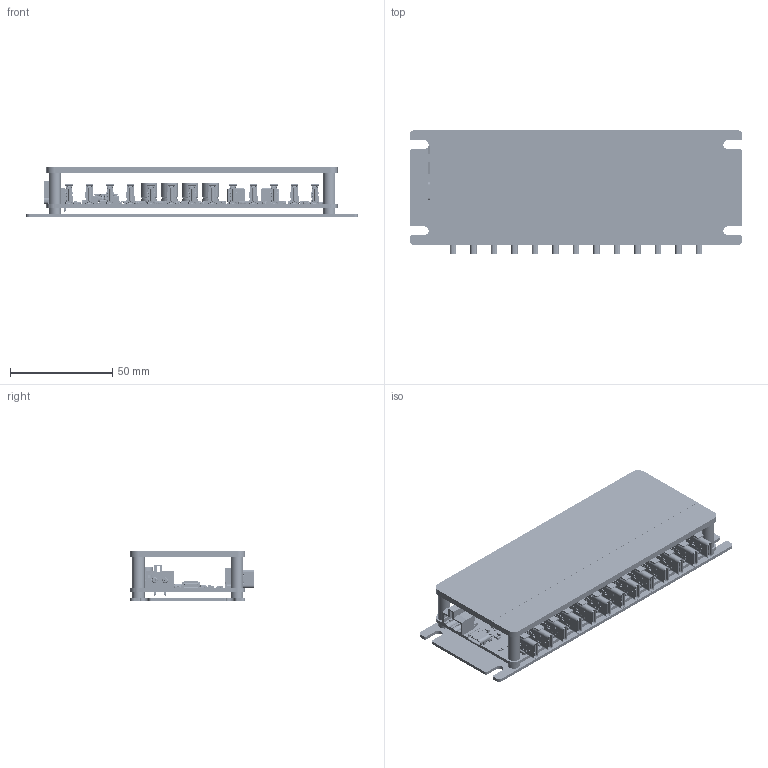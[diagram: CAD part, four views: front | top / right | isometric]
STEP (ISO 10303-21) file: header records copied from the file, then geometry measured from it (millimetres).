
FILE_DESCRIPTION(('Open CASCADE Model'),'2;1');
FILE_NAME('Open CASCADE Shape Model','2025-07-02T08:25:57',('Author'),( 'Open CASCADE'),'Open CASCADE STEP processor 7.5','Open CASCADE 7.5' ,'Unknown');
FILE_SCHEMA(('AUTOMOTIVE_DESIGN { 1 0 10303 214 1 1 1 1 }'));
Length unit declared in the file: millimetre
Products named in the file (932): Open CASCADE STEP translator 7.5 1; Open CASCADE STEP translator 7.5 2; Open CASCADE STEP translator 7.5 3; Open CASCADE STEP translator 7.5 4; Open CASCADE STEP translator 7.5 5; Open CASCADE STEP translator 7.5 6; Open CASCADE STEP translator 7.5 7; Open CASCADE STEP translator 7.5 8; Open CASCADE STEP translator 7.5 9; Open CASCADE STEP translator 7.5 10; Open CASCADE STEP translator 7.5 11; Open CASCADE STEP translator 7.5 12; Open CASCADE STEP translator 7.5 13; Open CASCADE STEP translator 7.5 14; Open CASCADE STEP translator 7.5 15; Open CASCADE STEP translator 7.5 16; Open CASCADE STEP translator 7.5 17; Open CASCADE STEP translator 7.5 18; Open CASCADE STEP translator 7.5 19; Open CASCADE STEP translator 7.5 20; Open CASCADE STEP translator 7.5 21; Open CASCADE STEP translator 7.5 22; Open CASCADE STEP translator 7.5 23; Open CASCADE STEP translator 7.5 24; Open CASCADE STEP translator 7.5 25; Open CASCADE STEP translator 7.5 26; Open CASCADE STEP translator 7.5 27; Open CASCADE STEP translator 7.5 28; Open CASCADE STEP translator 7.5 29; Open CASCADE STEP translator 7.5 30; Open CASCADE STEP translator 7.5 31; Open CASCADE STEP translator 7.5 32; Open CASCADE STEP translator 7.5 33; Open CASCADE STEP translator 7.5 34; Open CASCADE STEP translator 7.5 35; Open CASCADE STEP translator 7.5 36; Open CASCADE STEP translator 7.5 37; Open CASCADE STEP translator 7.5 38; Open CASCADE STEP translator 7.5 39; Open CASCADE STEP translator 7.5 40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
Bounding box: 162 x 60.3 x 24.29 mm (x, y, z)
Volume: 63122.7 mm3; surface area: 91390.1 mm2
Topology: 984 solids, 984 shells, 27254 faces, 69374 edges, 44392 vertices
Faces by surface type: plane 17614, cylinder 7158, bspline 1095, torus 814, cone 259, sphere 218, extrusion 96
Full cylindrical faces by diameter (mm): 0.05 x1596, 0.5 x13, 0.6 x26, 0.65 x6, 0.8 x26, 1 x30, 1.16 x4, 1.2 x8, 1.6 x2, 1.96 x4, 2.12 x4, 2.459 x4, 2.8 x2, 2.92 x4, 3.08 x4, 3.1 x4, 4.2 x4, 4.3 x4, 5.6 x4, 6 x4, 7.12 x4, 8 x8
Entity records: 968779 total; most frequent: CARTESIAN_POINT 239965, ORIENTED_EDGE 138658, DIRECTION 129978, EDGE_CURVE 69329, VECTOR 48932, LINE 48836, VERTEX_POINT 44392, AXIS2_PLACEMENT_3D 40523
